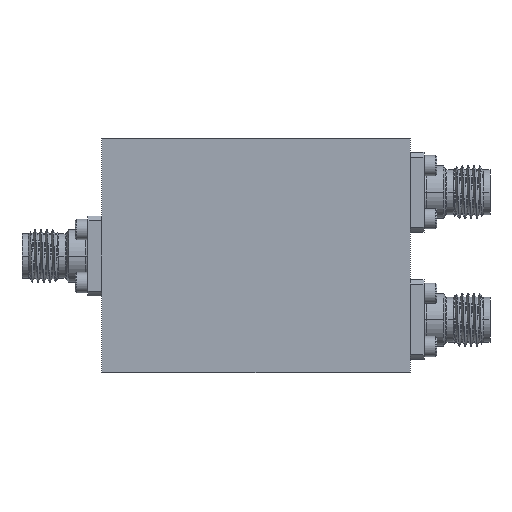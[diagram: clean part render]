
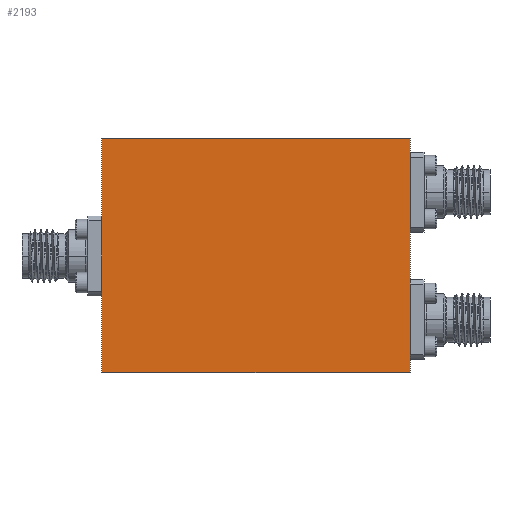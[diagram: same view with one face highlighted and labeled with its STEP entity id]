
A CAD part, front view. The second image highlights one B-rep face of the part: STEP entity #2193.
In plain terms, the highlighted planar face has unit normal (0, -1, 0) as drawn and (0, 0, -1) by its records, which use the part's own axes.
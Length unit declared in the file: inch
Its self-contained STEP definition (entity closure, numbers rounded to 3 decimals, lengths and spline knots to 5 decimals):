
#590 = ORIENTED_EDGE ( 'NONE', *, *, #11347, .F. ) ;
#2193 = ADVANCED_FACE ( 'NONE', ( #22260 ), #40149, .T. ) ;
#2603 = VERTEX_POINT ( 'NONE', #4793 ) ;
#3872 = ORIENTED_EDGE ( 'NONE', *, *, #40046, .F. ) ;
#4053 = DIRECTION ( 'NONE',  ( 0., 0., -1. ) ) ;
#4365 = VERTEX_POINT ( 'NONE', #46434 ) ;
#4793 = CARTESIAN_POINT ( 'NONE',  ( -0.725, -0.55, -0.4 ) ) ;
#6225 = EDGE_CURVE ( 'NONE', #47122, #44762, #11696, .T. ) ;
#6883 = DIRECTION ( 'NONE',  ( 0., -1., 0. ) ) ;
#7181 = EDGE_CURVE ( 'NONE', #4365, #2603, #32413, .T. ) ;
#7421 = DIRECTION ( 'NONE',  ( -1., 0., 0. ) ) ;
#8115 = CARTESIAN_POINT ( 'NONE',  ( 0.725, -0.55, -0.4 ) ) ;
#9122 = VECTOR ( 'NONE', #27236, 39.37008 ) ;
#10095 = CARTESIAN_POINT ( 'NONE',  ( 0.725, 0.55, -0.4 ) ) ;
#11347 = EDGE_CURVE ( 'NONE', #44762, #4365, #12644, .T. ) ;
#11696 = LINE ( 'NONE', #8115, #22585 ) ;
#12644 = LINE ( 'NONE', #42262, #9122 ) ;
#14601 = CARTESIAN_POINT ( 'NONE',  ( 0., 0., -0.4 ) ) ;
#14949 = DIRECTION ( 'NONE',  ( 1., 0., 0. ) ) ;
#17572 = LINE ( 'NONE', #40010, #37171 ) ;
#17796 = EDGE_LOOP ( 'NONE', ( #38873, #3872, #32796, #590 ) ) ;
#22260 = FACE_OUTER_BOUND ( 'NONE', #17796, .T. ) ;
#22585 = VECTOR ( 'NONE', #26281, 39.37008 ) ;
#23805 = CARTESIAN_POINT ( 'NONE',  ( 0.725, -0.55, -0.4 ) ) ;
#26281 = DIRECTION ( 'NONE',  ( 0., 1., 0. ) ) ;
#27236 = DIRECTION ( 'NONE',  ( -1., 0., 0. ) ) ;
#32413 = LINE ( 'NONE', #39609, #36228 ) ;
#32796 = ORIENTED_EDGE ( 'NONE', *, *, #7181, .F. ) ;
#36228 = VECTOR ( 'NONE', #6883, 39.37008 ) ;
#37171 = VECTOR ( 'NONE', #14949, 39.37008 ) ;
#38873 = ORIENTED_EDGE ( 'NONE', *, *, #6225, .F. ) ;
#39609 = CARTESIAN_POINT ( 'NONE',  ( -0.725, -0.55, -0.4 ) ) ;
#40010 = CARTESIAN_POINT ( 'NONE',  ( -0.725, -0.55, -0.4 ) ) ;
#40046 = EDGE_CURVE ( 'NONE', #2603, #47122, #17572, .T. ) ;
#40149 = PLANE ( 'NONE',  #45594 ) ;
#42262 = CARTESIAN_POINT ( 'NONE',  ( -0.725, 0.55, -0.4 ) ) ;
#44762 = VERTEX_POINT ( 'NONE', #10095 ) ;
#45594 = AXIS2_PLACEMENT_3D ( 'NONE', #14601, #4053, #7421 ) ;
#46434 = CARTESIAN_POINT ( 'NONE',  ( -0.725, 0.55, -0.4 ) ) ;
#47122 = VERTEX_POINT ( 'NONE', #23805 ) ;
